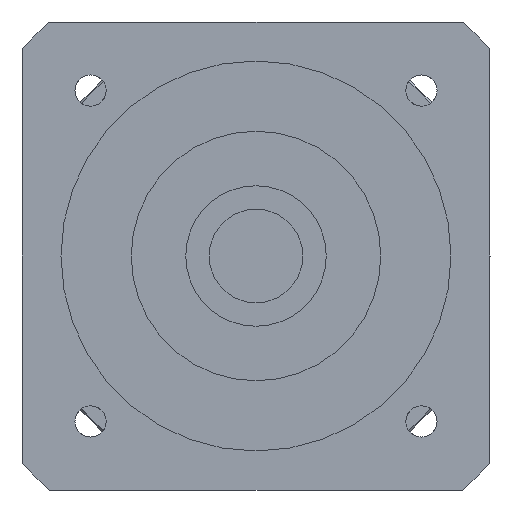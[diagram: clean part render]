
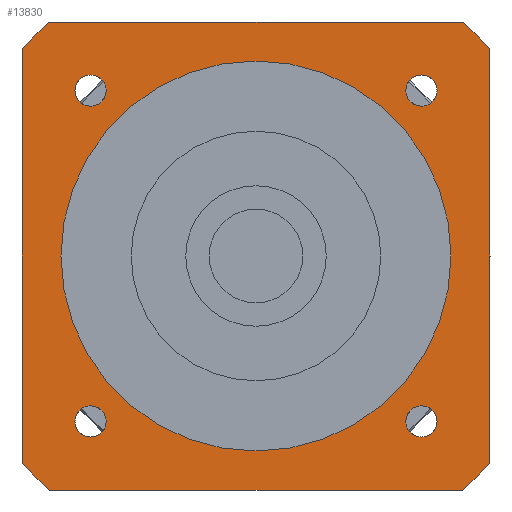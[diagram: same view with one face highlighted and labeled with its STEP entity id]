
A CAD part, left-side view. The second image highlights one B-rep face of the part: STEP entity #13830.
In plain terms, the highlighted planar face has unit normal (-1, 0, 0) as drawn and (0, 0, -1) by its records, which use the part's own axes.
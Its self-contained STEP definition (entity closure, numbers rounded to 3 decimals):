
#8790=CARTESIAN_POINT('',(21.213,19.213,-35.5));
#8800=VERTEX_POINT('',#8790);
#8830=CARTESIAN_POINT('',(21.213,21.213,-35.5));
#8840=DIRECTION('',(0.,0.,-1.));
#8850=DIRECTION('',(0.,1.,0.));
#8860=AXIS2_PLACEMENT_3D('',#8830,#8840,#8850);
#8870=CIRCLE('',#8860,2.);
#8880=CARTESIAN_POINT('',(21.213,23.213,-35.5));
#8890=VERTEX_POINT('',#8880);
#8900=EDGE_CURVE('',#8890,#8800,#8870,.T.);
#9300=CARTESIAN_POINT('',(-19.213,21.213,-35.5));
#9310=VERTEX_POINT('',#9300);
#9340=CARTESIAN_POINT('',(-21.213,21.213,-35.5));
#9350=DIRECTION('',(0.,0.,-1.));
#9360=DIRECTION('',(-1.,0.,0.));
#9370=AXIS2_PLACEMENT_3D('',#9340,#9350,#9360);
#9380=CIRCLE('',#9370,2.);
#9390=CARTESIAN_POINT('',(-23.213,21.213,-35.5));
#9400=VERTEX_POINT('',#9390);
#9410=EDGE_CURVE('',#9400,#9310,#9380,.T.);
#12340=CARTESIAN_POINT('',(25.,0.,-35.5));
#12350=VERTEX_POINT('',#12340);
#12380=CARTESIAN_POINT('',(0.,0.,
-35.5));
#12390=DIRECTION('',(0.,0.,1.));
#12400=DIRECTION('',(0.,1.,0.));
#12410=AXIS2_PLACEMENT_3D('',#12380,#12390,#12400);
#12420=CIRCLE('',#12410,25.);
#12430=CARTESIAN_POINT('',(0.,25.,-35.5));
#12440=VERTEX_POINT('',#12430);
#12450=EDGE_CURVE('',#12350,#12440,#12420,.T.);
#12470=CARTESIAN_POINT('',(-25.,0.,-35.5));
#12480=VERTEX_POINT('',#12470);
#12490=EDGE_CURVE('',#12440,#12480,#12420,.T.);
#12620=CARTESIAN_POINT('',(30.,30.,-35.5));
#12630=DIRECTION('',(0.,0.,-1.));
#12640=DIRECTION('',(1.,0.,0.));
#12650=AXIS2_PLACEMENT_3D('',#12620,#12630,#12640);
#12660=PLANE('',#12650);
#12670=CARTESIAN_POINT('',(-21.213,-21.213,-35.5));
#12680=DIRECTION('',(0.,0.,-1.));
#12690=DIRECTION('',(0.,-1.,0.));
#12700=AXIS2_PLACEMENT_3D('',#12670,#12680,#12690);
#12710=CIRCLE('',#12700,2.);
#12720=CARTESIAN_POINT('',(-21.213,-23.213,-35.5));
#12730=VERTEX_POINT('',#12720);
#12740=CARTESIAN_POINT('',(-21.213,-19.213,-35.5));
#12750=VERTEX_POINT('',#12740);
#12760=EDGE_CURVE('',#12730,#12750,#12710,.T.);
#12770=ORIENTED_EDGE('',*,*,#12760,.F.);
#12780=EDGE_CURVE('',#12750,#12730,#12710,.T.);
#12790=ORIENTED_EDGE('',*,*,#12780,.F.);
#12800=EDGE_LOOP('',(#12790,#12770));
#12810=FACE_BOUND('',#12800,.T.);
#12820=ORIENTED_EDGE('',*,*,#9410,.F.);
#12830=EDGE_CURVE('',#9310,#9400,#9380,.T.);
#12840=ORIENTED_EDGE('',*,*,#12830,.F.);
#12850=EDGE_LOOP('',(#12840,#12820));
#12860=FACE_BOUND('',#12850,.T.);
#12870=ORIENTED_EDGE('',*,*,#8900,.F.);
#12880=EDGE_CURVE('',#8800,#8890,#8870,.T.);
#12890=ORIENTED_EDGE('',*,*,#12880,.F.);
#12900=EDGE_LOOP('',(#12890,#12870));
#12910=FACE_BOUND('',#12900,.T.);
#12920=EDGE_CURVE('',#12480,#12350,#12420,.T.);
#12930=ORIENTED_EDGE('',*,*,#12920,.T.);
#12940=ORIENTED_EDGE('',*,*,#12490,.T.);
#12950=ORIENTED_EDGE('',*,*,#12450,.T.);
#12960=EDGE_LOOP('',(#12950,#12940,#12930));
#12970=FACE_BOUND('',#12960,.T.);
#12980=CARTESIAN_POINT('',(-30.,30.,-35.5));
#12990=DIRECTION('',(1.,0.,0.));
#13000=VECTOR('',#12990,1000.);
#13010=LINE('',#12980,#13000);
#13020=CARTESIAN_POINT('',(-26.458,30.,-35.5));
#13030=VERTEX_POINT('',#13020);
#13040=CARTESIAN_POINT('',(26.458,30.,-35.5));
#13050=VERTEX_POINT('',#13040);
#13060=EDGE_CURVE('',#13030,#13050,#13010,.T.);
#13070=ORIENTED_EDGE('',*,*,#13060,.T.);
#13080=CARTESIAN_POINT('',(0.,0.,
-35.5));
#13090=DIRECTION('',(0.,0.,-1.));
#13100=DIRECTION('',(1.,0.,0.));
#13110=AXIS2_PLACEMENT_3D('',#13080,#13090,#13100);
#13120=CIRCLE('',#13110,40.);
#13130=CARTESIAN_POINT('',(-30.,26.458,-35.5));
#13140=VERTEX_POINT('',#13130);
#13150=EDGE_CURVE('',#13140,#13030,#13120,.T.);
#13160=ORIENTED_EDGE('',*,*,#13150,.T.);
#13170=CARTESIAN_POINT('',(-30.,-30.,-35.5));
#13180=DIRECTION('',(0.,1.,0.));
#13190=VECTOR('',#13180,1000.);
#13200=LINE('',#13170,#13190);
#13210=CARTESIAN_POINT('',(-30.,-26.458,-35.5));
#13220=VERTEX_POINT('',#13210);
#13230=EDGE_CURVE('',#13220,#13140,#13200,.T.);
#13240=ORIENTED_EDGE('',*,*,#13230,.T.);
#13250=CARTESIAN_POINT('',(0.,0.,
-35.5));
#13260=DIRECTION('',(0.,0.,-1.));
#13270=DIRECTION('',(1.,0.,0.));
#13280=AXIS2_PLACEMENT_3D('',#13250,#13260,#13270);
#13290=CIRCLE('',#13280,40.);
#13300=CARTESIAN_POINT('',(-26.458,-30.,-35.5));
#13310=VERTEX_POINT('',#13300);
#13320=EDGE_CURVE('',#13310,#13220,#13290,.T.);
#13330=ORIENTED_EDGE('',*,*,#13320,.T.);
#13340=CARTESIAN_POINT('',(30.,-30.,-35.5));
#13350=DIRECTION('',(-1.,0.,0.));
#13360=VECTOR('',#13350,1000.);
#13370=LINE('',#13340,#13360);
#13380=CARTESIAN_POINT('',(26.458,-30.,-35.5));
#13390=VERTEX_POINT('',#13380);
#13400=EDGE_CURVE('',#13390,#13310,#13370,.T.);
#13410=ORIENTED_EDGE('',*,*,#13400,.T.);
#13420=CARTESIAN_POINT('',(0.,0.,
-35.5));
#13430=DIRECTION('',(0.,0.,-1.));
#13440=DIRECTION('',(1.,0.,0.));
#13450=AXIS2_PLACEMENT_3D('',#13420,#13430,#13440);
#13460=CIRCLE('',#13450,40.);
#13470=CARTESIAN_POINT('',(30.,-26.458,-35.5));
#13480=VERTEX_POINT('',#13470);
#13490=EDGE_CURVE('',#13480,#13390,#13460,.T.);
#13500=ORIENTED_EDGE('',*,*,#13490,.T.);
#13510=CARTESIAN_POINT('',(30.,30.,-35.5));
#13520=DIRECTION('',(0.,-1.,0.));
#13530=VECTOR('',#13520,1000.);
#13540=LINE('',#13510,#13530);
#13550=CARTESIAN_POINT('',(30.,26.458,-35.5));
#13560=VERTEX_POINT('',#13550);
#13570=EDGE_CURVE('',#13560,#13480,#13540,.T.);
#13580=ORIENTED_EDGE('',*,*,#13570,.T.);
#13590=CARTESIAN_POINT('',(0.,0.,
-35.5));
#13600=DIRECTION('',(0.,0.,-1.));
#13610=DIRECTION('',(1.,0.,0.));
#13620=AXIS2_PLACEMENT_3D('',#13590,#13600,#13610);
#13630=CIRCLE('',#13620,40.);
#13640=EDGE_CURVE('',#13050,#13560,#13630,.T.);
#13650=ORIENTED_EDGE('',*,*,#13640,.T.);
#13660=EDGE_LOOP('',(#13650,#13580,#13500,#13410,#13330,#13240,#13160,
#13070));
#13670=FACE_OUTER_BOUND('',#13660,.T.);
#13680=CARTESIAN_POINT('',(21.213,-21.213,-35.5));
#13690=DIRECTION('',(0.,0.,-1.));
#13700=DIRECTION('',(1.,0.,0.));
#13710=AXIS2_PLACEMENT_3D('',#13680,#13690,#13700);
#13720=CIRCLE('',#13710,2.);
#13730=CARTESIAN_POINT('',(23.213,-21.213,-35.5));
#13740=VERTEX_POINT('',#13730);
#13750=CARTESIAN_POINT('',(19.213,-21.213,-35.5));
#13760=VERTEX_POINT('',#13750);
#13770=EDGE_CURVE('',#13740,#13760,#13720,.T.);
#13780=ORIENTED_EDGE('',*,*,#13770,.F.);
#13790=EDGE_CURVE('',#13760,#13740,#13720,.T.);
#13800=ORIENTED_EDGE('',*,*,#13790,.F.);
#13810=EDGE_LOOP('',(#13800,#13780));
#13820=FACE_BOUND('',#13810,.T.);
#13830=ADVANCED_FACE('',(#12810,#12860,#12910,#12970,#13670,#13820),
#12660,.T.);
